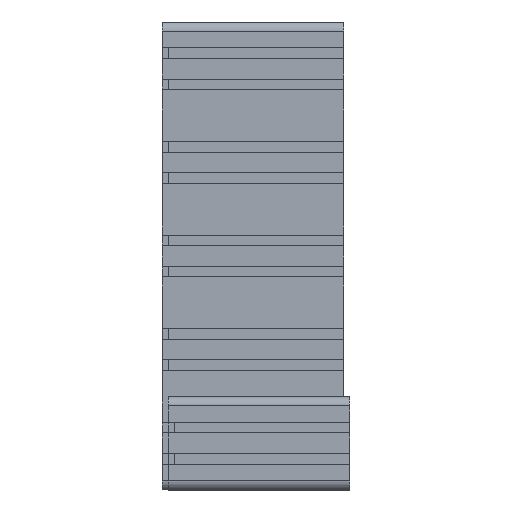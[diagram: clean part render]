
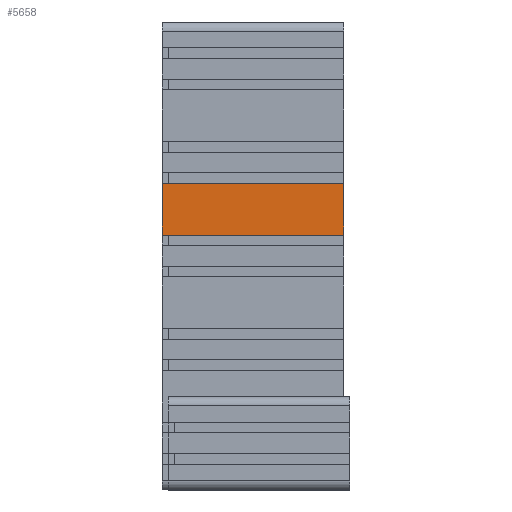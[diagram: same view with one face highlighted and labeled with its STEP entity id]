
A CAD part, left-side view. The second image highlights one B-rep face of the part: STEP entity #5658.
In plain terms, the highlighted planar face has unit normal (-1, 0, 0).
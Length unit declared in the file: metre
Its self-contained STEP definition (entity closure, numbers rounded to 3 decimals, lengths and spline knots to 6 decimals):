
#1306=ORIENTED_EDGE('',*,*,#2362,.T.);
#1307=ORIENTED_EDGE('',*,*,#2364,.F.);
#1308=ORIENTED_EDGE('',*,*,#2365,.F.);
#1309=ORIENTED_EDGE('',*,*,#2366,.T.);
#2362=EDGE_CURVE('',#2933,#2932,#3684,.T.);
#2364=EDGE_CURVE('',#2934,#2932,#3686,.T.);
#2365=EDGE_CURVE('',#2935,#2934,#3687,.T.);
#2366=EDGE_CURVE('',#2935,#2933,#3688,.T.);
#2932=VERTEX_POINT('',#8763);
#2933=VERTEX_POINT('',#8765);
#2934=VERTEX_POINT('',#8769);
#2935=VERTEX_POINT('',#8771);
#3684=LINE('',#8764,#4464);
#3686=LINE('',#8768,#4466);
#3687=LINE('',#8770,#4467);
#3688=LINE('',#8772,#4468);
#4464=VECTOR('',#7183,1.);
#4466=VECTOR('',#7187,1.);
#4467=VECTOR('',#7188,1.);
#4468=VECTOR('',#7189,1.);
#4833=EDGE_LOOP('',(#1306,#1307,#1308,#1309));
#5145=FACE_BOUND('',#4833,.T.);
#5399=PLANE('',#5963);
#5658=ADVANCED_FACE('',(#5145),#5399,.T.);
#5963=AXIS2_PLACEMENT_3D('',#8767,#7185,#7186);
#7183=DIRECTION('',(0.,1.,0.));
#7185=DIRECTION('',(-1.,0.,0.));
#7186=DIRECTION('',(0.,0.,1.));
#7187=DIRECTION('',(0.,0.,1.));
#7188=DIRECTION('',(0.,1.,0.));
#7189=DIRECTION('',(0.,0.,1.));
#8763=CARTESIAN_POINT('',(0.345662,0.0025,0.129455));
#8764=CARTESIAN_POINT('',(0.345662,-0.074,0.129455));
#8765=CARTESIAN_POINT('',(0.345662,-0.074,0.129455));
#8767=CARTESIAN_POINT('',(0.345662,-0.074,0.1185));
#8768=CARTESIAN_POINT('',(0.345662,0.0025,0.1185));
#8769=CARTESIAN_POINT('',(0.345662,0.0025,0.107545));
#8770=CARTESIAN_POINT('',(0.345662,-0.074,0.107545));
#8771=CARTESIAN_POINT('',(0.345662,-0.074,0.107545));
#8772=CARTESIAN_POINT('',(0.345662,-0.074,0.1185));
